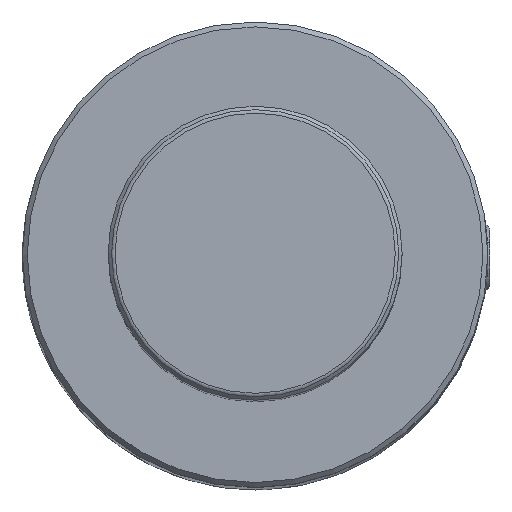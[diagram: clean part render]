
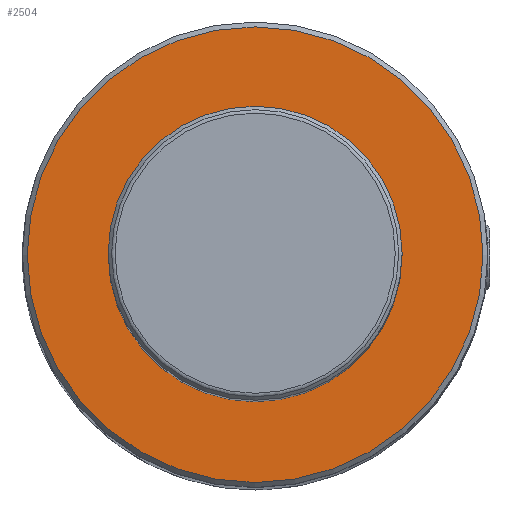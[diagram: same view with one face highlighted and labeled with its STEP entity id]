
A CAD part, top view. The second image highlights one B-rep face of the part: STEP entity #2504.
In plain terms, the highlighted planar face has unit normal (0, 0, 1).
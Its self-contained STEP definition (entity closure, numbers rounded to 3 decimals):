
#2484 = VERTEX_POINT('',#2485);
#2485 = CARTESIAN_POINT('',(46.5,0.,294.));
#2493 = EDGE_CURVE('',#2484,#2484,#2494,.T.);
#2494 = CIRCLE('',#2495,46.5);
#2495 = AXIS2_PLACEMENT_3D('',#2496,#2497,#2498);
#2496 = CARTESIAN_POINT('',(0.,0.,294.));
#2497 = DIRECTION('',(0.,0.,1.));
#2498 = DIRECTION('',(1.,0.,0.));
#2504 = ADVANCED_FACE('',(#2505),#2508,.T.);
#2505 = FACE_BOUND('',#2506,.T.);
#2506 = EDGE_LOOP('',(#2507));
#2507 = ORIENTED_EDGE('',*,*,#2493,.T.);
#2508 = PLANE('',#2509);
#2509 = AXIS2_PLACEMENT_3D('',#2510,#2511,#2512);
#2510 = CARTESIAN_POINT('',(0.,0.,294.));
#2511 = DIRECTION('',(0.,0.,1.));
#2512 = DIRECTION('',(1.,0.,0.));
